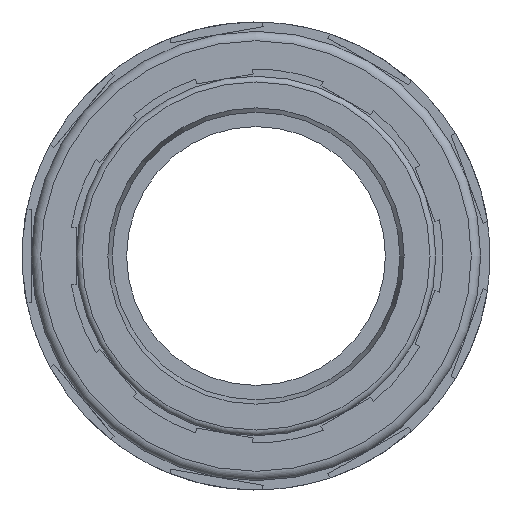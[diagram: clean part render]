
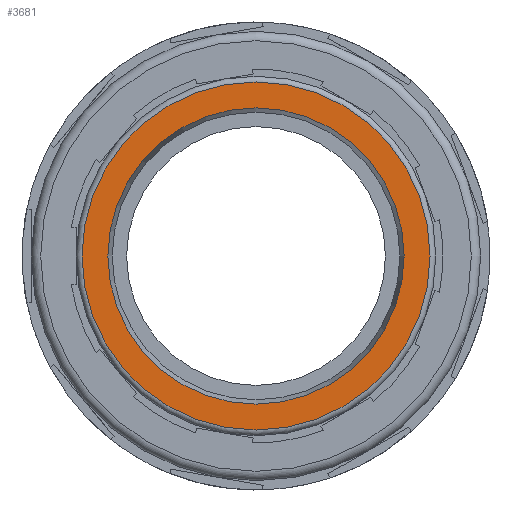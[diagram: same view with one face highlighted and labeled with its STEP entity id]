
A CAD part, left-side view. The second image highlights one B-rep face of the part: STEP entity #3681.
In plain terms, the highlighted planar face has unit normal (-1, 0, 0).
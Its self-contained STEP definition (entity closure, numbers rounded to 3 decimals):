
#63=PLANE('',#3936);
#1032=FACE_BOUND('',#1333,.T.);
#1109=FACE_OUTER_BOUND('',#1332,.T.);
#1332=EDGE_LOOP('',(#2780));
#1333=EDGE_LOOP('',(#2781));
#1521=CIRCLE('',#3848,56.65);
#1544=CIRCLE('',#3882,66.55);
#1659=VERTEX_POINT('',#5309);
#1698=VERTEX_POINT('',#5398);
#2013=EDGE_CURVE('',#1659,#1659,#1521,.T.);
#2052=EDGE_CURVE('',#1698,#1698,#1544,.T.);
#2780=ORIENTED_EDGE('',*,*,#2052,.T.);
#2781=ORIENTED_EDGE('',*,*,#2013,.T.);
#3681=ADVANCED_FACE('',(#1109,#1032),#63,.T.);
#3848=AXIS2_PLACEMENT_3D('',#5310,#4205,#4206);
#3882=AXIS2_PLACEMENT_3D('',#5399,#4289,#4290);
#3936=AXIS2_PLACEMENT_3D('',#5587,#4480,#4481);
#4205=DIRECTION('center_axis',(1.,0.,0.));
#4206=DIRECTION('ref_axis',(0.,1.,0.));
#4289=DIRECTION('center_axis',(-1.,0.,0.));
#4290=DIRECTION('ref_axis',(0.,-1.,0.));
#4480=DIRECTION('center_axis',(-1.,0.,0.));
#4481=DIRECTION('ref_axis',(0.,0.,1.));
#5309=CARTESIAN_POINT('',(-139.5,56.65,0.));
#5310=CARTESIAN_POINT('Origin',(-139.5,0.,0.));
#5398=CARTESIAN_POINT('',(-139.5,-66.55,0.));
#5399=CARTESIAN_POINT('Origin',(-139.5,0.,0.));
#5587=CARTESIAN_POINT('Origin',(-139.5,0.,0.));
